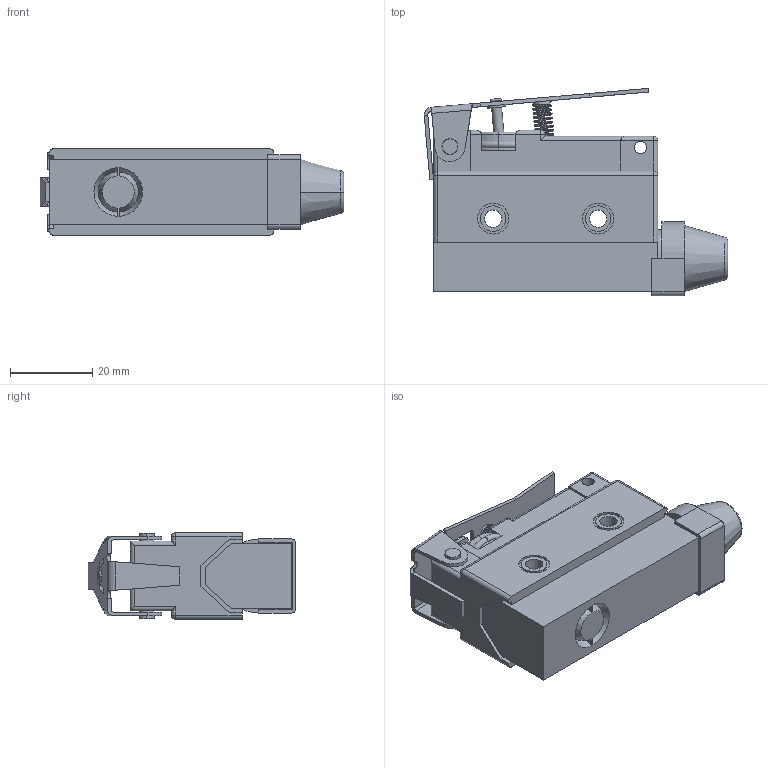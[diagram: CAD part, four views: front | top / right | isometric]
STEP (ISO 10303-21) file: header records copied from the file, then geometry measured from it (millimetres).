
FILE_DESCRIPTION (( 'STEP AP203' ), '1' );
FILE_NAME ('FM7140.STEP', '2018-06-20T16:15:25', ( '' ), ( '' ), 'SwSTEP 2.0', 'SolidWorks 2012', '' );
FILE_SCHEMA (( 'CONFIG_CONTROL_DESIGN' ));
Length unit declared in the file: millimetre
Products named in the file (1): FM7140
Bounding box: 73.76 x 50.36 x 21 mm (x, y, z)
Volume: 40975 mm3; surface area: 12638 mm2
Topology: 2 solids, 2 shells, 286 faces, 707 edges, 441 vertices
Faces by surface type: plane 129, cylinder 109, torus 26, cone 8, sphere 8, bspline 6
Entity records: 15873 total; most frequent: CARTESIAN_POINT 8951, DIRECTION 1476, ORIENTED_EDGE 1394, EDGE_CURVE 697, AXIS2_PLACEMENT_3D 542, VERTEX_POINT 441, VECTOR 392, LINE 392
